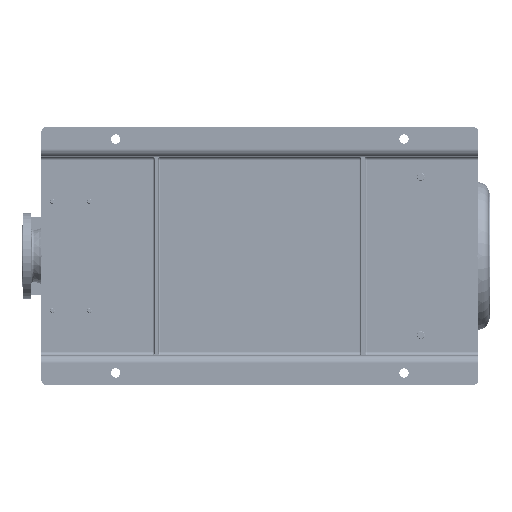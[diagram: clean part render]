
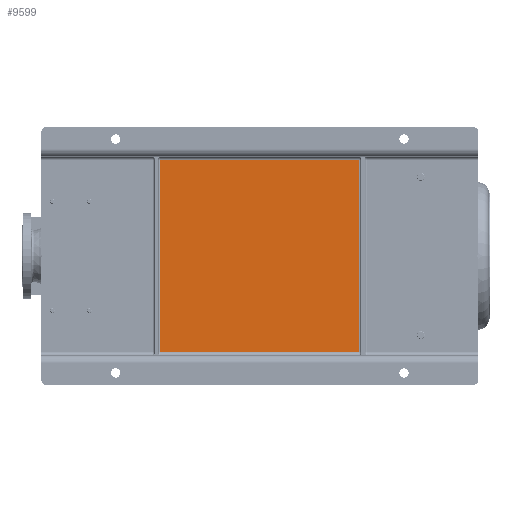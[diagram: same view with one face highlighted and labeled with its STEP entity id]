
A CAD part, front view. The second image highlights one B-rep face of the part: STEP entity #9599.
In plain terms, the highlighted planar face has unit normal (0, -1, 0).
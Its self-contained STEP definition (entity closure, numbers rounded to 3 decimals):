
#9599 = ADVANCED_FACE ( 'NONE', ( #88851 ), #167471, .T. ) ;
#13257 = DIRECTION ( 'NONE',  ( 1., 0., 0. ) ) ;
#13321 = CARTESIAN_POINT ( 'NONE',  ( 575., 65., -300. ) ) ;
#18745 = VERTEX_POINT ( 'NONE', #76244 ) ;
#21175 = CARTESIAN_POINT ( 'NONE',  ( 575., 65., -815. ) ) ;
#24482 = LINE ( 'NONE', #13321, #150064 ) ;
#39795 = ORIENTED_EDGE ( 'NONE', *, *, #72136, .T. ) ;
#45756 = VERTEX_POINT ( 'NONE', #77582 ) ;
#47760 = DIRECTION ( 'NONE',  ( 0., 0., -1. ) ) ;
#50085 = VECTOR ( 'NONE', #84194, 1000. ) ;
#50193 = CARTESIAN_POINT ( 'NONE',  ( 575., 65., -305. ) ) ;
#54212 = LINE ( 'NONE', #156801, #66604 ) ;
#62341 = DIRECTION ( 'NONE',  ( 0., -1., 0. ) ) ;
#66604 = VECTOR ( 'NONE', #13257, 1000. ) ;
#70503 = VECTOR ( 'NONE', #47760, 1000. ) ;
#72136 = EDGE_CURVE ( 'NONE', #45756, #18745, #128064, .T. ) ;
#76244 = CARTESIAN_POINT ( 'NONE',  ( 85., 65., -815. ) ) ;
#77582 = CARTESIAN_POINT ( 'NONE',  ( 85., 65., -305. ) ) ;
#81958 = EDGE_CURVE ( 'NONE', #95261, #152528, #24482, .T. ) ;
#82632 = AXIS2_PLACEMENT_3D ( 'NONE', #101665, #62341, #154631 ) ;
#84194 = DIRECTION ( 'NONE',  ( -1., 0., 0. ) ) ;
#88851 = FACE_OUTER_BOUND ( 'NONE', #111712, .T. ) ;
#89624 = CARTESIAN_POINT ( 'NONE',  ( 85., 65., -820. ) ) ;
#95261 = VERTEX_POINT ( 'NONE', #21175 ) ;
#97030 = CARTESIAN_POINT ( 'NONE',  ( 75., 65., -305. ) ) ;
#97957 = EDGE_CURVE ( 'NONE', #18745, #95261, #54212, .T. ) ;
#101665 = CARTESIAN_POINT ( 'NONE',  ( 75., 65., -1120. ) ) ;
#109903 = ORIENTED_EDGE ( 'NONE', *, *, #81958, .T. ) ;
#109943 = ORIENTED_EDGE ( 'NONE', *, *, #159454, .T. ) ;
#111712 = EDGE_LOOP ( 'NONE', ( #39795, #140632, #109903, #109943 ) ) ;
#128064 = LINE ( 'NONE', #89624, #70503 ) ;
#140632 = ORIENTED_EDGE ( 'NONE', *, *, #97957, .T. ) ;
#144022 = DIRECTION ( 'NONE',  ( 0., 0., 1. ) ) ;
#150064 = VECTOR ( 'NONE', #144022, 1000. ) ;
#152528 = VERTEX_POINT ( 'NONE', #50193 ) ;
#154631 = DIRECTION ( 'NONE',  ( 0., 0., -1. ) ) ;
#156801 = CARTESIAN_POINT ( 'NONE',  ( 75., 65., -815. ) ) ;
#159454 = EDGE_CURVE ( 'NONE', #152528, #45756, #161122, .T. ) ;
#161122 = LINE ( 'NONE', #97030, #50085 ) ;
#167471 = PLANE ( 'NONE',  #82632 ) ;
